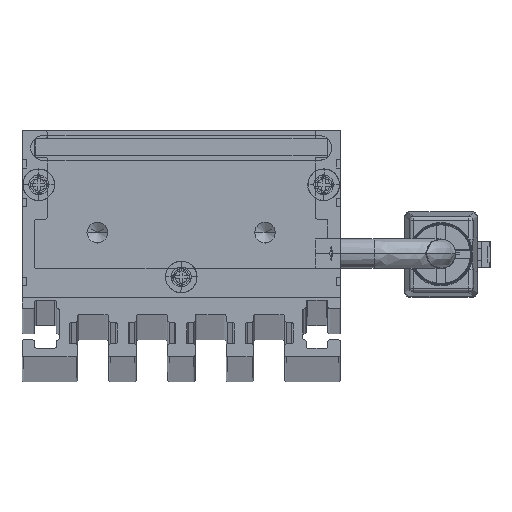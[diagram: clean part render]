
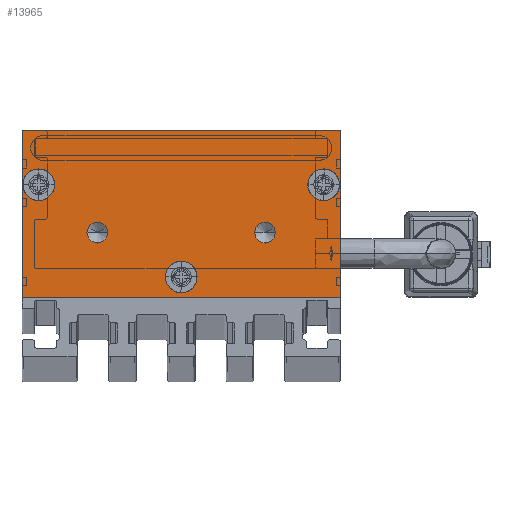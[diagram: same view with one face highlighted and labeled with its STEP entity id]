
A CAD part, top view. The second image highlights one B-rep face of the part: STEP entity #13965.
In plain terms, the highlighted planar face has unit normal (0, 0, 1) as drawn and (0, 0, -1) by its records, which use the part's own axes.
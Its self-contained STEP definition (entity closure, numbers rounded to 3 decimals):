
#279 = LINE ( 'NONE', #5332, #2223 ) ;
#296 = DIRECTION ( 'NONE',  ( 0., 0., -1. ) ) ;
#335 = AXIS2_PLACEMENT_3D ( 'NONE', #7963, #10549, #2993 ) ;
#754 = CARTESIAN_POINT ( 'NONE',  ( -18.9, 13.5, -2.5 ) ) ;
#875 = DIRECTION ( 'NONE',  ( -1., 0., 0. ) ) ;
#950 = ORIENTED_EDGE ( 'NONE', *, *, #7048, .F. ) ;
#986 = FACE_OUTER_BOUND ( 'NONE', #2120, .T. ) ;
#1189 = CARTESIAN_POINT ( 'NONE',  ( -1.9, 2.5, -2.5 ) ) ;
#1360 = VERTEX_POINT ( 'NONE', #3540 ) ;
#1518 = EDGE_CURVE ( 'NONE', #8004, #15893, #15626, .T. ) ;
#1522 = DIRECTION ( 'NONE',  ( 0., 1., 0. ) ) ;
#1744 = EDGE_CURVE ( 'NONE', #2534, #12401, #10046, .T. ) ;
#1793 = ORIENTED_EDGE ( 'NONE', *, *, #1989, .F. ) ;
#1894 = EDGE_LOOP ( 'NONE', ( #4751, #950 ) ) ;
#1989 = EDGE_CURVE ( 'NONE', #13221, #12095, #15466, .T. ) ;
#2108 = AXIS2_PLACEMENT_3D ( 'NONE', #7913, #296, #15489 ) ;
#2120 = EDGE_LOOP ( 'NONE', ( #14605, #8601, #1793, #4021 ) ) ;
#2223 = VECTOR ( 'NONE', #15223, 1000. ) ;
#2385 = FACE_BOUND ( 'NONE', #11072, .T. ) ;
#2388 = EDGE_CURVE ( 'NONE', #12401, #2534, #14609, .T. ) ;
#2481 = CARTESIAN_POINT ( 'NONE',  ( 18.9, 13.5, -2.5 ) ) ;
#2526 = ORIENTED_EDGE ( 'NONE', *, *, #4704, .F. ) ;
#2534 = VERTEX_POINT ( 'NONE', #6022 ) ;
#2579 = DIRECTION ( 'NONE',  ( -1., 0., 0. ) ) ;
#2711 = DIRECTION ( 'NONE',  ( 0., 0., -1. ) ) ;
#2771 = ORIENTED_EDGE ( 'NONE', *, *, #2388, .F. ) ;
#2993 = DIRECTION ( 'NONE',  ( -1., 0., 0. ) ) ;
#3220 = VERTEX_POINT ( 'NONE', #1189 ) ;
#3251 = DIRECTION ( 'NONE',  ( 0., 0., -1. ) ) ;
#3434 = EDGE_LOOP ( 'NONE', ( #6349, #4650 ) ) ;
#3534 = DIRECTION ( 'NONE',  ( 0., 0., -1. ) ) ;
#3540 = CARTESIAN_POINT ( 'NONE',  ( 8.75, 7.8, -2.5 ) ) ;
#3629 = CARTESIAN_POINT ( 'NONE',  ( 0., 0., -2.5 ) ) ;
#3743 = CARTESIAN_POINT ( 'NONE',  ( 10., 7.8, -2.5 ) ) ;
#3926 = ORIENTED_EDGE ( 'NONE', *, *, #1518, .F. ) ;
#4021 = ORIENTED_EDGE ( 'NONE', *, *, #10149, .F. ) ;
#4041 = DIRECTION ( 'NONE',  ( -1., 0., 0. ) ) ;
#4178 = VERTEX_POINT ( 'NONE', #8956 ) ;
#4302 = EDGE_CURVE ( 'NONE', #15893, #8004, #7205, .T. ) ;
#4436 = DIRECTION ( 'NONE',  ( -1., 0., 0. ) ) ;
#4587 = CARTESIAN_POINT ( 'NONE',  ( 19., 20., -2.5 ) ) ;
#4637 = FACE_BOUND ( 'NONE', #14102, .T. ) ;
#4650 = ORIENTED_EDGE ( 'NONE', *, *, #6275, .F. ) ;
#4660 = EDGE_CURVE ( 'NONE', #6892, #7099, #13086, .T. ) ;
#4704 = EDGE_CURVE ( 'NONE', #15455, #3220, #8843, .T. ) ;
#4751 = ORIENTED_EDGE ( 'NONE', *, *, #12871, .F. ) ;
#4792 = FACE_BOUND ( 'NONE', #1894, .T. ) ;
#4824 = AXIS2_PLACEMENT_3D ( 'NONE', #13380, #3251, #14289 ) ;
#4908 = DIRECTION ( 'NONE',  ( 0., 0., -1. ) ) ;
#4930 = VERTEX_POINT ( 'NONE', #12905 ) ;
#5019 = ORIENTED_EDGE ( 'NONE', *, *, #1744, .F. ) ;
#5022 = VECTOR ( 'NONE', #1522, 1000. ) ;
#5289 = CIRCLE ( 'NONE', #14587, 1.9 ) ;
#5332 = CARTESIAN_POINT ( 'NONE',  ( -19., 20., -2.5 ) ) ;
#5377 = VECTOR ( 'NONE', #13551, 1000. ) ;
#5681 = DIRECTION ( 'NONE',  ( 0., 0., -1. ) ) ;
#5878 = FACE_BOUND ( 'NONE', #13870, .T. ) ;
#5975 = CIRCLE ( 'NONE', #11265, 1.25 ) ;
#6022 = CARTESIAN_POINT ( 'NONE',  ( 15.1, 13.5, -2.5 ) ) ;
#6275 = EDGE_CURVE ( 'NONE', #8997, #1360, #12881, .T. ) ;
#6349 = ORIENTED_EDGE ( 'NONE', *, *, #6464, .F. ) ;
#6464 = EDGE_CURVE ( 'NONE', #1360, #8997, #5975, .T. ) ;
#6603 = AXIS2_PLACEMENT_3D ( 'NONE', #3629, #15086, #13518 ) ;
#6636 = AXIS2_PLACEMENT_3D ( 'NONE', #12600, #11682, #15738 ) ;
#6829 = DIRECTION ( 'NONE',  ( 0., -1., 0. ) ) ;
#6881 = DIRECTION ( 'NONE',  ( 0., 0., -1. ) ) ;
#6892 = VERTEX_POINT ( 'NONE', #13440 ) ;
#6934 = CIRCLE ( 'NONE', #4824, 1.25 ) ;
#6981 = CARTESIAN_POINT ( 'NONE',  ( -19., 0., -2.5 ) ) ;
#7048 = EDGE_CURVE ( 'NONE', #4178, #4930, #6934, .T. ) ;
#7099 = VERTEX_POINT ( 'NONE', #14783 ) ;
#7205 = CIRCLE ( 'NONE', #335, 1.9 ) ;
#7279 = FACE_BOUND ( 'NONE', #3434, .T. ) ;
#7913 = CARTESIAN_POINT ( 'NONE',  ( -17., 13.5, -2.5 ) ) ;
#7954 = ORIENTED_EDGE ( 'NONE', *, *, #4302, .F. ) ;
#7963 = CARTESIAN_POINT ( 'NONE',  ( -17., 13.5, -2.5 ) ) ;
#8004 = VERTEX_POINT ( 'NONE', #14074 ) ;
#8404 = CARTESIAN_POINT ( 'NONE',  ( 17., 13.5, -2.5 ) ) ;
#8589 = AXIS2_PLACEMENT_3D ( 'NONE', #13243, #15805, #4436 ) ;
#8601 = ORIENTED_EDGE ( 'NONE', *, *, #11906, .F. ) ;
#8610 = PLANE ( 'NONE',  #6603 ) ;
#8843 = CIRCLE ( 'NONE', #8589, 1.9 ) ;
#8847 = CARTESIAN_POINT ( 'NONE',  ( -10., 7.8, -2.5 ) ) ;
#8956 = CARTESIAN_POINT ( 'NONE',  ( -8.75, 7.8, -2.5 ) ) ;
#8997 = VERTEX_POINT ( 'NONE', #9795 ) ;
#9050 = CARTESIAN_POINT ( 'NONE',  ( 10., 7.8, -2.5 ) ) ;
#9214 = DIRECTION ( 'NONE',  ( -1., 0., 0. ) ) ;
#9417 = CARTESIAN_POINT ( 'NONE',  ( -19., 20., -2.5 ) ) ;
#9795 = CARTESIAN_POINT ( 'NONE',  ( 11.25, 7.8, -2.5 ) ) ;
#10006 = ORIENTED_EDGE ( 'NONE', *, *, #14374, .F. ) ;
#10046 = CIRCLE ( 'NONE', #13250, 1.9 ) ;
#10149 = EDGE_CURVE ( 'NONE', #7099, #13221, #14636, .T. ) ;
#10549 = DIRECTION ( 'NONE',  ( 0., 0., -1. ) ) ;
#11012 = AXIS2_PLACEMENT_3D ( 'NONE', #3743, #4908, #2579 ) ;
#11072 = EDGE_LOOP ( 'NONE', ( #5019, #2771 ) ) ;
#11080 = CARTESIAN_POINT ( 'NONE',  ( 0., 2.5, -2.5 ) ) ;
#11265 = AXIS2_PLACEMENT_3D ( 'NONE', #9050, #6881, #9214 ) ;
#11579 = AXIS2_PLACEMENT_3D ( 'NONE', #8847, #2711, #4041 ) ;
#11682 = DIRECTION ( 'NONE',  ( 0., 0., -1. ) ) ;
#11906 = EDGE_CURVE ( 'NONE', #12095, #6892, #279, .T. ) ;
#12095 = VERTEX_POINT ( 'NONE', #4587 ) ;
#12401 = VERTEX_POINT ( 'NONE', #2481 ) ;
#12593 = CARTESIAN_POINT ( 'NONE',  ( 1.9, 2.5, -2.5 ) ) ;
#12600 = CARTESIAN_POINT ( 'NONE',  ( 17., 13.5, -2.5 ) ) ;
#12871 = EDGE_CURVE ( 'NONE', #4930, #4178, #14502, .T. ) ;
#12881 = CIRCLE ( 'NONE', #11012, 1.25 ) ;
#12905 = CARTESIAN_POINT ( 'NONE',  ( -11.25, 7.8, -2.5 ) ) ;
#13086 = LINE ( 'NONE', #9417, #13366 ) ;
#13221 = VERTEX_POINT ( 'NONE', #14073 ) ;
#13243 = CARTESIAN_POINT ( 'NONE',  ( 0., 2.5, -2.5 ) ) ;
#13250 = AXIS2_PLACEMENT_3D ( 'NONE', #8404, #5681, #875 ) ;
#13366 = VECTOR ( 'NONE', #6829, 1000. ) ;
#13380 = CARTESIAN_POINT ( 'NONE',  ( -10., 7.8, -2.5 ) ) ;
#13440 = CARTESIAN_POINT ( 'NONE',  ( -19., 20., -2.5 ) ) ;
#13518 = DIRECTION ( 'NONE',  ( 1., 0., 0. ) ) ;
#13551 = DIRECTION ( 'NONE',  ( 1., 0., 0. ) ) ;
#13740 = DIRECTION ( 'NONE',  ( -1., 0., 0. ) ) ;
#13870 = EDGE_LOOP ( 'NONE', ( #7954, #3926 ) ) ;
#13965 = ADVANCED_FACE ( 'NONE', ( #2385, #4637, #5878, #7279, #4792, #986 ), #8610, .F. ) ;
#14073 = CARTESIAN_POINT ( 'NONE',  ( 19., 0., -2.5 ) ) ;
#14074 = CARTESIAN_POINT ( 'NONE',  ( -15.1, 13.5, -2.5 ) ) ;
#14102 = EDGE_LOOP ( 'NONE', ( #10006, #2526 ) ) ;
#14289 = DIRECTION ( 'NONE',  ( -1., 0., 0. ) ) ;
#14374 = EDGE_CURVE ( 'NONE', #3220, #15455, #5289, .T. ) ;
#14502 = CIRCLE ( 'NONE', #11579, 1.25 ) ;
#14587 = AXIS2_PLACEMENT_3D ( 'NONE', #11080, #3534, #13740 ) ;
#14605 = ORIENTED_EDGE ( 'NONE', *, *, #4660, .F. ) ;
#14609 = CIRCLE ( 'NONE', #6636, 1.9 ) ;
#14636 = LINE ( 'NONE', #6981, #5377 ) ;
#14783 = CARTESIAN_POINT ( 'NONE',  ( -19., 0., -2.5 ) ) ;
#15086 = DIRECTION ( 'NONE',  ( 0., 0., 1. ) ) ;
#15219 = CARTESIAN_POINT ( 'NONE',  ( 19., 20., -2.5 ) ) ;
#15223 = DIRECTION ( 'NONE',  ( -1., 0., 0. ) ) ;
#15455 = VERTEX_POINT ( 'NONE', #12593 ) ;
#15466 = LINE ( 'NONE', #15219, #5022 ) ;
#15489 = DIRECTION ( 'NONE',  ( -1., 0., 0. ) ) ;
#15626 = CIRCLE ( 'NONE', #2108, 1.9 ) ;
#15738 = DIRECTION ( 'NONE',  ( -1., 0., 0. ) ) ;
#15805 = DIRECTION ( 'NONE',  ( 0., 0., -1. ) ) ;
#15893 = VERTEX_POINT ( 'NONE', #754 ) ;
